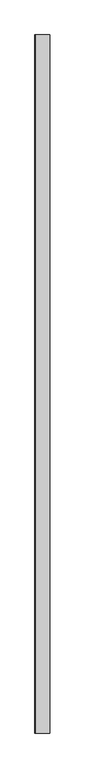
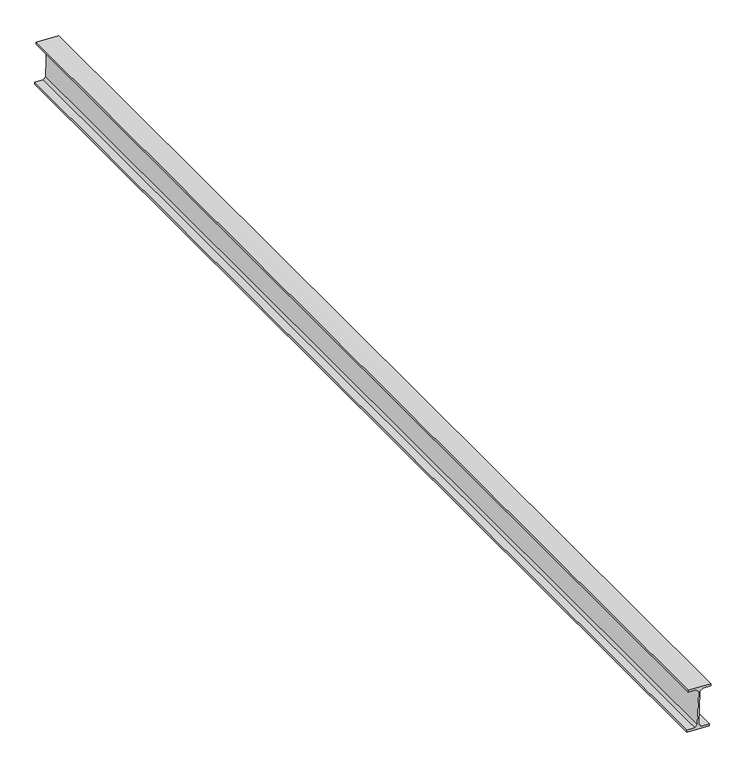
"""IFC4 building model written with IfcOpenShell, lengths in millimetres: beam geometry, Panne 7617 : Panne 7617."""

from ifc_helpers import new_model, si_unit, frame, origin, place, context, project, spatial, polyline, outline, extrude, source, transform, mapped, element, save


def beam_29cb8ae2(model_context):
    return source(origin(), model_context, "Body", "SweptSolid", [
        extrude(outline(polyline([(7677.1793279, 5612.077204), (7674.3110841, 5694.0270251), (7681.7065558, 5694.2858666), (7682.738424, 5664.8039188), (7692.0477238, 5656.1242335), (7819.1698853, 5660.5735091), (7827.8495706, 5669.8828089), (7826.8177024, 5699.3647568), (7834.2131741, 5699.6235983), (7837.0814178, 5617.6737772), (7829.6859461, 5617.4149357), (7828.654078, 5646.8968835), (7819.3447782, 5655.5765688), (7692.2226167, 5651.1272932), (7683.5429313, 5641.8179934), (7684.5747995, 5612.3360455), (7677.1793279, 5612.077204)])), frame((0.0, -8510.0, 0.0), z_axis=(0.0, 1.0, 0.0), x_axis=(0.0, 0.0, 1.0)), (0.0, 0.0, 1.0), 4120.0),
    ])


if __name__ == "__main__":
    model = new_model("IFC4")
    model_context = context("Model", 3, world=origin())
    ifc_project = project(units=[si_unit("LENGTHUNIT", "METRE", prefix="MILLI")], contexts=[model_context])
    site = spatial("IfcSite", under=ifc_project)
    building = spatial("IfcBuilding", under=site)
    placement = place(None, origin())
    beam_shape = beam_29cb8ae2(model_context)
    element("IfcBeam", 1, ObjectType="Panne 7617 : Panne 7617", at=placement, inside=building, context=model_context, shape_type="MappedRepresentation", body=[
        mapped(beam_shape, transform((0.0, 0.0, 0.0), x_axis=(1.0, 0.0, 0.0), y_axis=(0.0, 1.0, 0.0), z_axis=(0.0, 0.0, 1.0))),
    ])
    save(model, "model.ifc")
